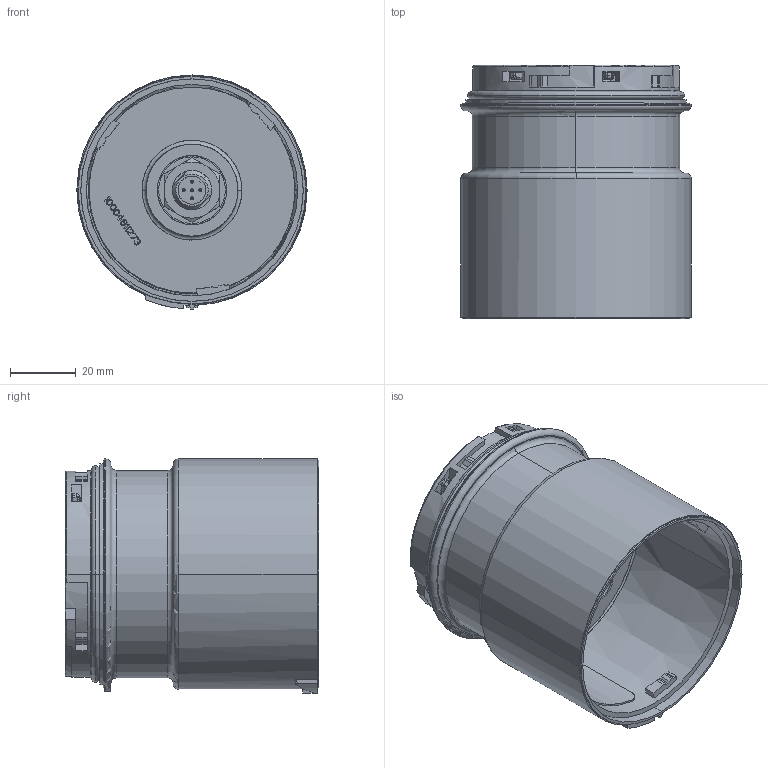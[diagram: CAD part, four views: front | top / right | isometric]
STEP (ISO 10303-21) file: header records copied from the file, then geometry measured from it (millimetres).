
FILE_DESCRIPTION((''),'2;1');
FILE_NAME('856T-B24LC','2021-02-03T15:04:47',('WJPreisc'),('Rockwell Automation'),'CREO PARAMETRIC BY PTC INC, 2019444','CREO PARAMETRIC BY PTC INC, 2019444','');
FILE_SCHEMA(('CONFIG_CONTROL_DESIGN'));
Length unit declared in the file: millimetre
Products named in the file (1): 856T-B24LC
Bounding box: 70 x 77 x 71.13 mm (x, y, z)
Surface area: 79311.1 mm2 (no closed solid volume)
Topology: 0 solids, 51 shells, 1438 faces, 5271 edges, 3837 vertices
Faces by surface type: plane 775, cylinder 379, cone 120, bspline 94, torus 60, sphere 10
Entity records: 63042 total; most frequent: CARTESIAN_POINT 19476, ORIENTED_EDGE 8915, DIRECTION 8350, EDGE_CURVE 5263, VERTEX_POINT 3837, VECTOR 3392, LINE 3392, AXIS2_PLACEMENT_3D 2479
